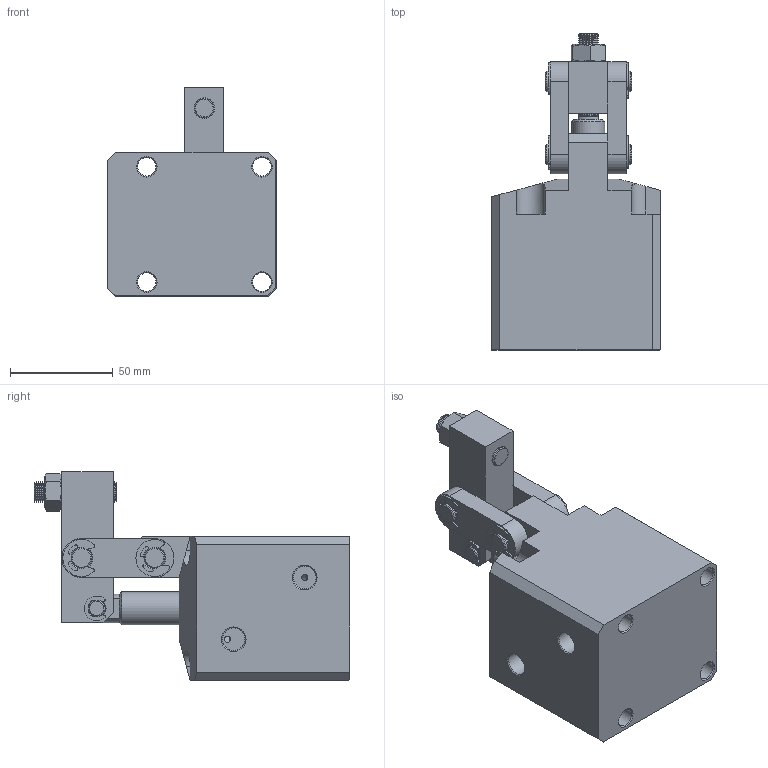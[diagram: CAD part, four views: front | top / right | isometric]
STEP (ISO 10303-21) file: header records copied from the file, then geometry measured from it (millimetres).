
FILE_DESCRIPTION(/* description */ ('STEP AP214'),/* implementation_level */ '2;1');
FILE_NAME(/* name */ 'D:\Vault_2016\Projekty\Clamptek\Hydraulic\CBLU\CBLU-45\STEP\CBLU-45R.stp',/* time_stamp */ '2021-05-06T12:41:55+02:00',/* author */ ('user'),/* organization */ (''),/* preprocessor_version */ 'ST-DEVELOPER v18.1',/* originating_system */ 'Autodesk Inventor 2021',/* authorisation */ '');
FILE_SCHEMA (('AP203_CONFIGURATION_CONTROLLED_3D_DESIGN_OF_MECHANICAL_PARTS_AND_ASSEMBLIES_MIM_LF { 1 0 10303 203 3 1 4 }','AUTOMOTIVE_DESIGN { 1 0 10303 214 3 1 1 }'));
Length unit declared in the file: millimetre
Products named in the file (11): CBLU-45R; 45CR±¾Ìå_2; Áã¼þ3_3; Á¬¸Ë; 45Ñ¹°å; ¶ÌÏúÖá; ³¤ÏúÖá; Ð¡µ¯; ´ó¿Û; ÂÝÄ¸; ÂÝË¨M10
Assembly tree (16 placements, depth 2):
  CBLU-45R
    45CR±¾Ìå_2
    Áã¼þ3_3
    Á¬¸Ë  x2
    45Ñ¹°å
    ¶ÌÏúÖá
    ³¤ÏúÖá  x2
    Ð¡µ¯  x2
    ´ó¿Û  x4
    ÂÝÄ¸
    ÂÝË¨M10
Bounding box: 82 x 153.5 x 101.5 mm (x, y, z)
Volume: 450072.4 mm3; surface area: 87792.9 mm2
Topology: 16 solids, 16 shells, 435 faces, 1093 edges, 708 vertices
Faces by surface type: cylinder 164, plane 146, cone 123, bspline 2
Full cylindrical faces by diameter (mm): 3 x3, 6.9 x1, 7 x1, 8 x6, 8.376 x1, 8.5 x1, 8.9 x2, 9 x6, 10 x52, 11 x2, 16 x2, 45 x2
Entity records: 10702 total; most frequent: DIRECTION 1913, CARTESIAN_POINT 1910, ORIENTED_EDGE 1658, EDGE_CURVE 829, AXIS2_PLACEMENT_3D 755, VERTEX_POINT 533, LINE 403, VECTOR 403
